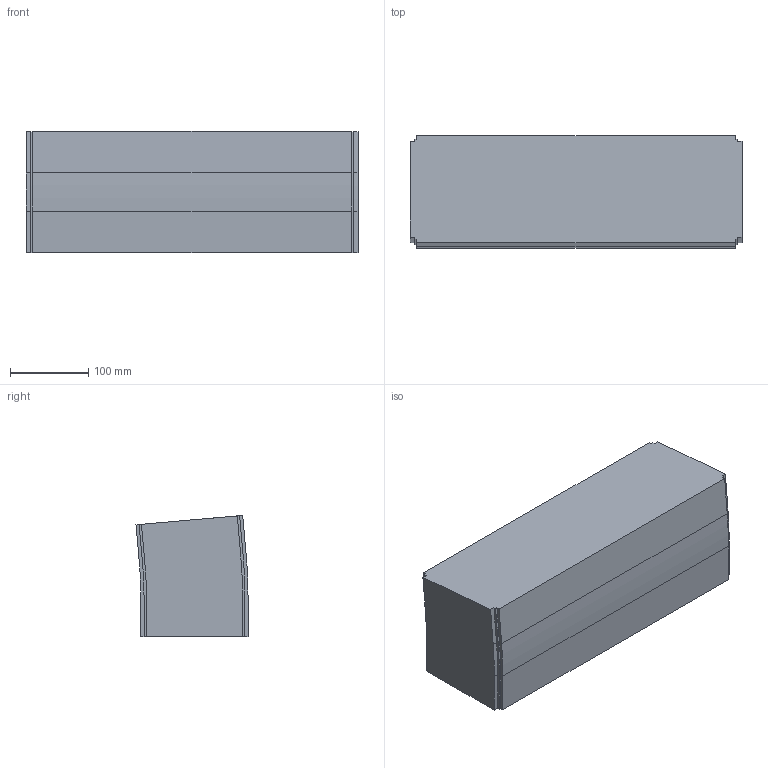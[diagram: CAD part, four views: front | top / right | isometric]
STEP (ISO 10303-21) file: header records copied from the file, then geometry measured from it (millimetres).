
FILE_DESCRIPTION (( 'STEP AP214' ), '1' );
FILE_NAME ('FS-MTC2-150-INOX verticaalbocht.420 5°.STEP', '2017-02-08T12:41:46', ( '' ), ( '' ), 'SwSTEP 2.0', 'SolidWorks 2016', '' );
FILE_SCHEMA (( 'AUTOMOTIVE_DESIGN' ));
Length unit declared in the file: millimetre
Products named in the file (1): FS-MTC2-150-INOX verticaalbocht.420 5°
Bounding box: 423 x 142.72 x 154.33 mm (x, y, z)
Volume: 8551568.4 mm3; surface area: 281390 mm2
Topology: 1 solids, 1 shells, 42 faces, 120 edges, 80 vertices
Faces by surface type: plane 32, cylinder 10
Entity records: 1398 total; most frequent: CARTESIAN_POINT 243, ORIENTED_EDGE 240, DIRECTION 226, EDGE_CURVE 120, LINE 100, VECTOR 100, VERTEX_POINT 80, AXIS2_PLACEMENT_3D 63
